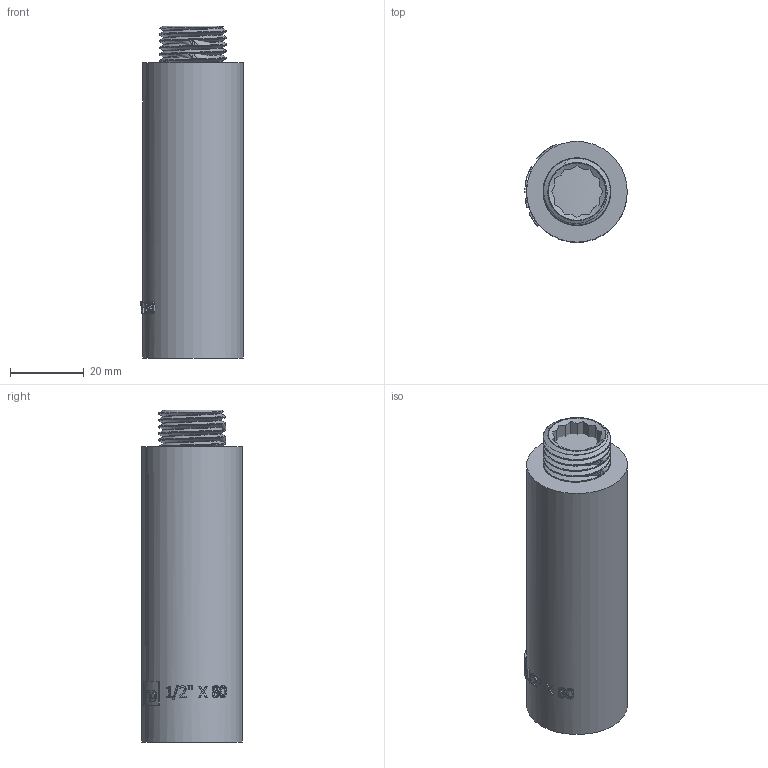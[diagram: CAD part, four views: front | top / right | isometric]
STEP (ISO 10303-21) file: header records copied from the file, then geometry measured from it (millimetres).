
FILE_DESCRIPTION(/* description */ (''),/* implementation_level */ '2;1');
FILE_NAME(/* name */ 'C:\Users\Doom\Desktop\Фадотех\Резьба\UD80 18.03.2020\UD80 18.03.2020.stp',/* time_stamp */ '2022-01-22T12:01:56+02:00',/* author */ ('Doom'),/* organization */ (''),/* preprocessor_version */ 'ST-DEVELOPER v18',/* originating_system */ 'Autodesk Inventor 2020',/* authorisation */ '');
FILE_SCHEMA (('AUTOMOTIVE_DESIGN { 1 0 10303 214 3 1 1 }'));
Length unit declared in the file: millimetre
Products named in the file (1): UD80 18.03.2020
Bounding box: 27.8 x 27.3 x 90 mm (x, y, z)
Volume: 29081.5 mm3; surface area: 20615.7 mm2
Topology: 3 solids, 3 shells, 201 faces, 543 edges, 362 vertices
Faces by surface type: plane 76, bspline 74, cylinder 48, cone 3
Full cylindrical faces by diameter (mm): 15.649 x2, 17.107 x1, 18.26 x18, 18.34 x6, 20.95 x2, 21.5 x1, 27.3 x1
Entity records: 18844 total; most frequent: CARTESIAN_POINT 14429, ORIENTED_EDGE 1078, DIRECTION 629, EDGE_CURVE 539, VERTEX_POINT 360, EDGE_LOOP 223, AXIS2_PLACEMENT_3D 217, B_SPLINE_CURVE_WITH_KNOTS 205
